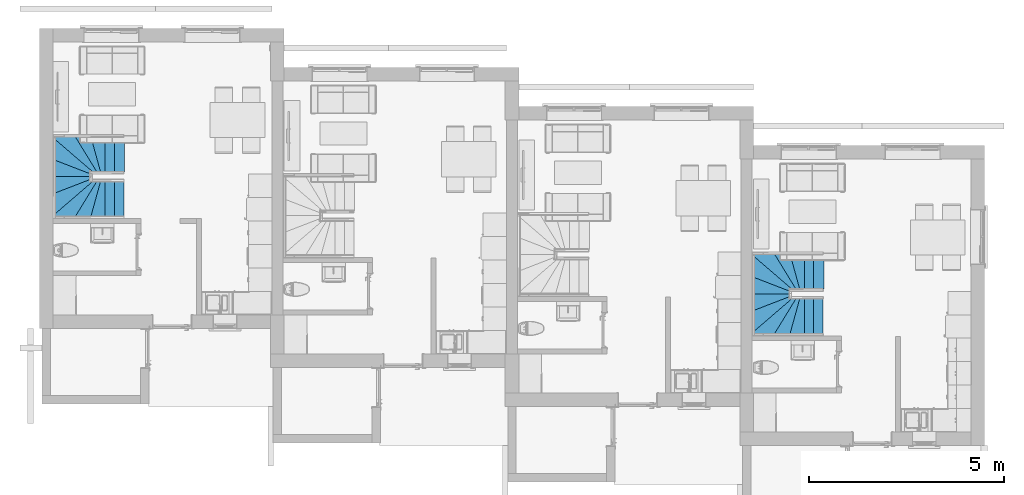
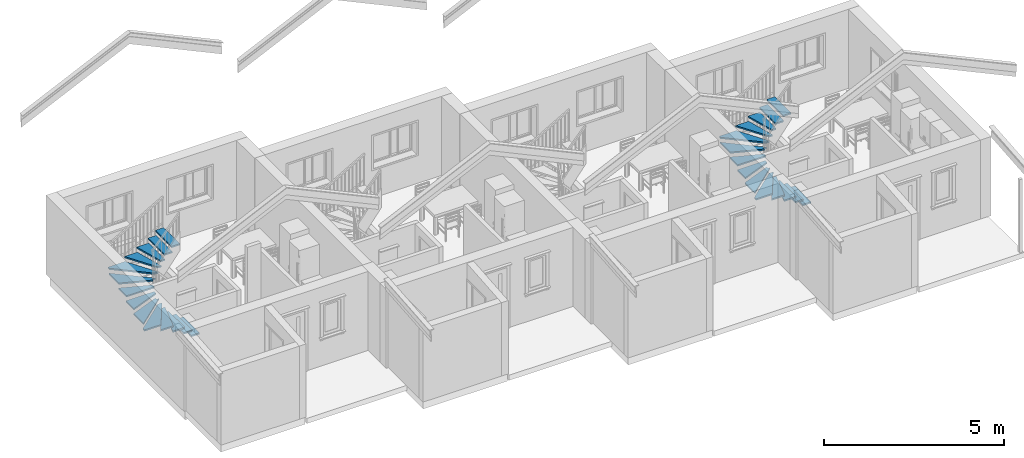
# One storey, part 24 of 65: 2 stair flights, 2 elements without a shape of their own.
"""IFC2X3 building model written with IfcOpenShell, lengths in millimetres."""

from ifc_helpers import new_model, entity, si_unit, converted_unit, direction, frame, frame_2d, origin, place, context, subcontext, project, spatial, polyline, rectangle, outline, extrude, material, type_object, element, aggregate, save


model = new_model("IFC2X3")

# Units and contexts
model_context = context("Model", 3, precision=0.01, world=origin(), true_north=direction((0.0, 1.0)))
body_context = subcontext(model_context, "Body", "Model", "MODEL_VIEW")
ifc_project = project(units=[si_unit("LENGTHUNIT", "METRE", prefix="MILLI"), si_unit("AREAUNIT", "SQUARE_METRE"), si_unit("VOLUMEUNIT", "CUBIC_METRE"), converted_unit("PLANEANGLEUNIT", "DEGREE", entity("IfcPlaneAngleMeasure", 0.017453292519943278), si_unit("PLANEANGLEUNIT", "RADIAN"), dimensions=[0, 0, 0, 0, 0, 0, 0])], contexts=[model_context])

# Site, building, storey
site_placement = place(None, origin())
site = spatial("IfcSite", under=ifc_project, at=site_placement, Name="Default", CompositionType="ELEMENT")
building_placement = place(site_placement, origin())
building = spatial("IfcBuilding", under=site, at=building_placement, CompositionType="ELEMENT")
storey_placement = place(building_placement, origin())
storey = spatial("IfcBuildingStorey", under=building, at=storey_placement, Name="Et. 1", CompositionType="ELEMENT", Elevation=0.0)

# Stair, stair flight
type_product = type_object("IfcTypeProduct", Name="Assembled Stair:Tretrapp - Åpne trinn m/ vanger")
stair_1_placement = place(storey_placement, origin())
stair_1 = element("IfcStair", 1, at=stair_1_placement, inside=storey, type_object=type_product, Name="Assembled Stair:Stair", ShapeType="NOTDEFINED")
ifc_material = material(Name="Focus - Tre")
stair_flight_type = type_object("IfcStairFlightType", Name="Non-Monolithic Run:Tretrinn - 20mm Trinnese", PredefinedType="WINDER")
stair_flight_1_placement = place(stair_1_placement, origin())
stair_flight_1 = element("IfcStairFlight", 2, at=stair_flight_1_placement, type_object=stair_flight_type, material=ifc_material, Name="Assembled Stair:Stair:1057884 Run 1", NumberOfRiser=15, NumberOfTreads=14, RiserHeight=0.5863954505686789, TreadLength=0.7874015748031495, context=body_context, shape_type="SweptSolid", body=[
    extrude(rectangle(XDim=259.9999999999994, YDim=899.999999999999, at=frame_2d((1.0800249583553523e-12, 1.0800249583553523e-12), x_axis=(1.0, 0.0))), frame((12118.361761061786, 14720.15178763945, 128.73333333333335)), (0.0, 0.0, 1.0), 50.0),
    extrude(rectangle(XDim=259.9999999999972, YDim=899.999999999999, at=frame_2d((0.0, 2.1600499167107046e-12), x_axis=(1.0, 0.0))), frame((11878.361761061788, 14720.15178763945, 307.4666666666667)), (0.0, 0.0, 1.0), 50.0),
    extrude(outline(polyline([(-254.59179310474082, -450.0), (130.3739955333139, -450.0), (130.3739955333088, 450.0), (-6.1561979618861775, 450.0), (-254.59179310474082, -450.0)])), frame((11637.987765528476, 14720.15178763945, 486.20000000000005)), (0.0, 0.0, 1.0), 50.0),
    extrude(outline(polyline([(-410.52986200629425, -450.0), (10.772636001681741, -450.0), (259.20823114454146, 450.0), (140.54899486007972, 450.0), (-410.52986200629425, -450.0)])), frame((11393.371327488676, 14720.151787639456, 664.9333333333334)), (0.0, 0.0, 1.0), 50.0),
    extrude(outline(polyline([(285.1710924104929, -504.9052201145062), (378.7072268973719, -504.9052201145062), (378.7072268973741, 13.519214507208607), (-521.2927731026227, 564.5980713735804), (-521.2927731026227, 431.69315434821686), (285.1710924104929, -504.9052201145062)])), frame((10992.773676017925, 14648.85901453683, 843.6666666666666), z_axis=(0.0, 0.0, 1.0), x_axis=(0.0, -1.0, 0.0)), (0.0, 0.0, 1.0), 50.0),
    extrude(outline(polyline([(69.66647185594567, -553.4499500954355), (624.5852128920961, -553.4499500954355), (-208.27121090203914, 413.7998003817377), (-208.27121090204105, 346.55004990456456), (-277.70926294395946, 346.55004990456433), (69.66647185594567, -553.4499500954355)])), frame((11041.318405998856, 14961.880576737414, 1022.4000000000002), z_axis=(0.0, 0.0, 1.0), x_axis=(0.0, -1.0, 0.0)), (0.0, 0.0, 1.0), 50.0),
    extrude(outline(polyline([(-132.84393359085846, -450.0), (306.5318010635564, -450.0), (-40.843933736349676, 450.0), (-132.84393373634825, 450.0), (-132.84393359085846, -450.0)])), frame((10937.868455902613, 15177.307853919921, 1201.1333333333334), z_axis=(0.0, 0.0, 1.0), x_axis=(0.0, -1.0, 0.0)), (0.0, 0.0, 1.0), 50.0),
    extrude(outline(polyline([(-307.2508269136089, -450.0), (133.56295974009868, -450.0), (133.56295959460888, 450.0), (40.12490757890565, 450.0), (-307.2508269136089, -450.0)])), frame((10937.868455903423, 15423.714747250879, 1379.8666666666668), z_axis=(0.0, 0.0, 1.0), x_axis=(0.0, -1.0, 0.0)), (0.0, 0.0, 1.0), 50.0),
    extrude(outline(polyline([(-637.1240384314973, -559.5802253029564), (-77.25079126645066, -559.5802253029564), (270.1249432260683, 340.4197746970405), (222.1249432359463, 340.4197746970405), (222.1249432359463, 438.32090121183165), (-637.1240384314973, -559.5802253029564)])), frame((11047.44868120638, 15632.276730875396, 1558.6000000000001), z_axis=(0.0, 0.0, 1.0), x_axis=(0.0, -1.0, 0.0)), (0.0, 0.0, 1.0), 50.0),
    extrude(outline(polyline([(-21.459794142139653, -373.4287153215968), (520.4160652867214, -373.4287153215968), (520.416065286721, -306.2851387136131), (-446.83368520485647, 526.5712846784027), (-572.5386512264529, 526.5712846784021), (-21.459794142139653, -373.4287153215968)])), frame((11008.284521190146, 15936.723072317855, 1737.3333333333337), z_axis=(0.0, 0.0, 1.0), x_axis=(-1.0, 0.0, 0.0)), (0.0, 0.0, 1.0), 50.0),
    extrude(outline(polyline([(-9.4209189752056, -450.0), (409.1781451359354, -450.0), (-141.90071194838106, 450.0), (-257.8565142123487, 450.0), (-9.4209189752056, -450.0)])), frame((11415.471035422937, 15860.151787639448, 1916.0666666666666), z_axis=(0.0, 0.0, 1.0), x_axis=(-1.0, 0.0, 0.0)), (0.0, 0.0, 1.0), 50.0),
    extrude(outline(polyline([(-130.0, -450.0), (254.21779761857, -450.0), (5.782202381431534, 450.0), (-130.0, 450.0), (-130.0, -450.0)])), frame((11658.361760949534, 15860.151787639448, 2094.8), z_axis=(0.0, 0.0, 1.0), x_axis=(-1.0, 0.0, 0.0)), (0.0, 0.0, 1.0), 50.0),
    extrude(rectangle(XDim=260.00000000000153, YDim=899.999999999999, at=frame_2d((0.0, -1.0800249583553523e-12), x_axis=(1.0, 0.0))), frame((11898.361760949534, 15860.151787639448, 2273.5333333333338), z_axis=(0.0, 0.0, 1.0), x_axis=(-1.0, 0.0, 0.0)), (0.0, 0.0, 1.0), 50.0),
    extrude(rectangle(XDim=260.00000000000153, YDim=899.999999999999, at=frame_2d((-2.1600499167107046e-12, -1.0800249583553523e-12), x_axis=(1.0, 0.0))), frame((12138.36176094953, 15860.151787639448, 2452.266666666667), z_axis=(0.0, 0.0, 1.0), x_axis=(-1.0, 0.0, 0.0)), (0.0, 0.0, 1.0), 50.0),
])
aggregate(stair_1, [stair_flight_1])

stair_2_placement = place(storey_placement, origin())
stair_2 = element("IfcStair", 3, at=stair_2_placement, inside=storey, type_object=type_product, Name="Assembled Stair:Stair", ShapeType="NOTDEFINED")
stair_flight_2_placement = place(stair_2_placement, origin())
stair_flight_2 = element("IfcStairFlight", 4, at=stair_flight_2_placement, type_object=stair_flight_type, material=ifc_material, Name="Assembled Stair:Stair:1076204 Run 1", NumberOfRiser=15, NumberOfTreads=14, RiserHeight=0.5863954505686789, TreadLength=0.7874015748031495, context=body_context, shape_type="SweptSolid", body=[
    extrude(rectangle(XDim=259.9999999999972, YDim=899.999999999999, at=frame_2d((-2.1742607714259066e-12, -1.0800249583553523e-12), x_axis=(1.0, 0.0))), frame((30005.361761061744, 11720.151787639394, 128.73333333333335)), (0.0, 0.0, 1.0), 50.0),
    extrude(rectangle(XDim=260.00000000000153, YDim=899.999999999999, at=frame_2d((4.320099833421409e-12, 0.0), x_axis=(1.0, 0.0))), frame((29765.361761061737, 11720.151787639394, 307.4666666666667)), (0.0, 0.0, 1.0), 50.0),
    extrude(outline(polyline([(-254.59179310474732, -450.0), (130.3739955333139, -450.0), (130.3739955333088, 450.0), (-6.156197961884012, 450.0), (-254.59179310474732, -450.0)])), frame((29524.98776552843, 11720.151787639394, 486.20000000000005)), (0.0, 0.0, 1.0), 50.0),
    extrude(outline(polyline([(-410.5298620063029, -450.0), (10.772636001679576, -450.0), (259.20823114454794, 450.0), (140.54899486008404, 450.0), (-410.5298620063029, -450.0)])), frame((29280.371327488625, 11720.151787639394, 664.9333333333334)), (0.0, 0.0, 1.0), 50.0),
    extrude(outline(polyline([(285.17109241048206, -504.9052201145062), (378.70722689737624, -504.9052201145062), (378.7072268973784, 13.519214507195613), (-521.2927731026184, 564.5980713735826), (-521.2927731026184, 431.69315434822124), (285.17109241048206, -504.9052201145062)])), frame((28879.77367601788, 11648.859014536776, 843.6666666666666), z_axis=(0.0, 0.0, 1.0), x_axis=(0.0, -1.0, 0.0)), (0.0, 0.0, 1.0), 50.0),
    extrude(outline(polyline([(69.66647185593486, -553.4499500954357), (624.5852128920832, -553.4499500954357), (-208.27121090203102, 413.799800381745), (-208.27121090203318, 346.5500499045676), (-277.70926294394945, 346.5500499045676), (69.66647185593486, -553.4499500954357)])), frame((28928.31840599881, 11961.880576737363, 1022.4000000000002), z_axis=(0.0, 0.0, 1.0), x_axis=(0.0, -1.0, 0.0)), (0.0, 0.0, 1.0), 50.0),
    extrude(outline(polyline([(-132.84393359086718, -450.0), (306.5318010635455, -450.0), (-40.843933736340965, 450.0), (-132.84393373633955, 450.0), (-132.84393359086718, -450.0)])), frame((28824.86845590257, 12177.307853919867, 1201.1333333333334), z_axis=(0.0, 0.0, 1.0), x_axis=(0.0, -1.0, 0.0)), (0.0, 0.0, 1.0), 50.0),
    extrude(outline(polyline([(-307.2508269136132, -450.0), (133.56295974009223, -450.0), (133.56295959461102, 450.0), (40.12490757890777, 450.0), (-307.2508269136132, -450.0)])), frame((28824.868455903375, 12423.714747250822, 1379.8666666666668), z_axis=(0.0, 0.0, 1.0), x_axis=(0.0, -1.0, 0.0)), (0.0, 0.0, 1.0), 50.0),
    extrude(outline(polyline([(-637.1240384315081, -559.5802253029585), (-77.25079126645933, -559.5802253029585), (270.1249432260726, 340.4197746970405), (222.12494323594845, 340.41977469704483), (222.12494323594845, 438.320901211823), (-637.1240384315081, -559.5802253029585)])), frame((28934.448681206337, 12632.27673087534, 1558.6000000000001), z_axis=(0.0, 0.0, 1.0), x_axis=(0.0, -1.0, 0.0)), (0.0, 0.0, 1.0), 50.0),
    extrude(outline(polyline([(-21.45979414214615, -373.4287153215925), (520.4160652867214, -373.4287153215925), (520.416065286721, -306.2851387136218), (-446.83368520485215, 526.571284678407), (-572.5386512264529, 526.5712846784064), (-21.45979414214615, -373.4287153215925)])), frame((28895.284521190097, 12936.7230723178, 1737.3333333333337), z_axis=(0.0, 0.0, 1.0), x_axis=(-1.0, 0.0, 0.0)), (0.0, 0.0, 1.0), 50.0),
    extrude(outline(polyline([(-9.4209189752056, -450.0), (409.1781451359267, -450.0), (-141.90071194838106, 450.0), (-257.8565142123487, 450.0), (-9.4209189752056, -450.0)])), frame((29302.471035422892, 12860.15178763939, 1916.0666666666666), z_axis=(0.0, 0.0, 1.0), x_axis=(-1.0, 0.0, 0.0)), (0.0, 0.0, 1.0), 50.0),
    extrude(outline(polyline([(-130.0, -450.0), (254.21779761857, -450.0), (5.782202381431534, 450.0), (-130.0, 450.0), (-130.0, -450.0)])), frame((29545.36176094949, 12860.15178763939, 2094.8), z_axis=(0.0, 0.0, 1.0), x_axis=(-1.0, 0.0, 0.0)), (0.0, 0.0, 1.0), 50.0),
    extrude(rectangle(XDim=260.00000000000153, YDim=899.999999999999, at=frame_2d((4.334310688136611e-12, 1.0800249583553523e-12), x_axis=(1.0, 0.0))), frame((29785.361760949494, 12860.15178763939, 2273.5333333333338), z_axis=(0.0, 0.0, 1.0), x_axis=(-1.0, 0.0, 0.0)), (0.0, 0.0, 1.0), 50.0),
    extrude(rectangle(XDim=260.00000000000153, YDim=899.999999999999, at=frame_2d((-4.334310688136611e-12, 1.0800249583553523e-12), x_axis=(1.0, 0.0))), frame((30025.361760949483, 12860.15178763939, 2452.266666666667), z_axis=(0.0, 0.0, 1.0), x_axis=(-1.0, 0.0, 0.0)), (0.0, 0.0, 1.0), 50.0),
])
aggregate(stair_2, [stair_flight_2])

save(model, "model.ifc")
